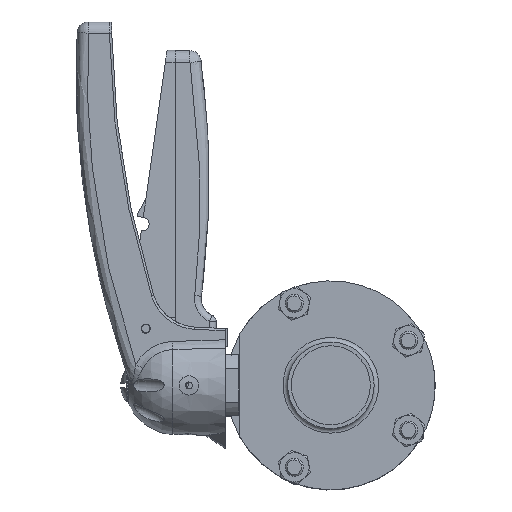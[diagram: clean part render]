
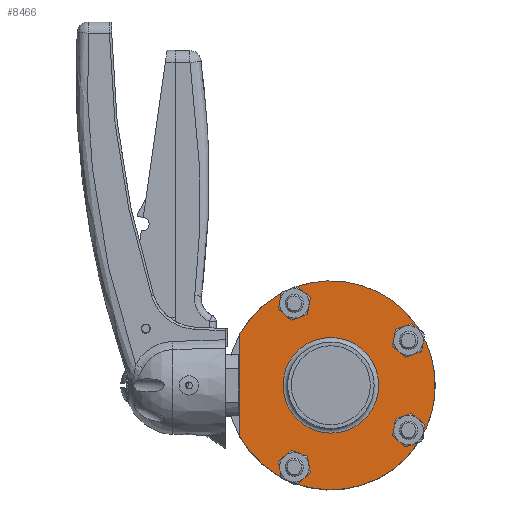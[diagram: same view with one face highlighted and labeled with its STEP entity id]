
A CAD part, top view. The second image highlights one B-rep face of the part: STEP entity #8466.
In plain terms, the highlighted planar face has unit normal (0, 0, 1) as drawn and (1, 0, 0) by its records, which use the part's own axes.
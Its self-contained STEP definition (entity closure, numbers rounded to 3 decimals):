
#871=FACE_BOUND('',#1800,.T.);
#872=FACE_BOUND('',#1801,.T.);
#873=FACE_BOUND('',#1802,.T.);
#874=FACE_BOUND('',#1803,.T.);
#875=FACE_BOUND('',#1804,.T.);
#934=PLANE('',#9156);
#1298=FACE_OUTER_BOUND('',#1799,.T.);
#1799=EDGE_LOOP('',(#6172,#6173));
#1800=EDGE_LOOP('',(#6174,#6175));
#1801=EDGE_LOOP('',(#6176,#6177));
#1802=EDGE_LOOP('',(#6178,#6179));
#1803=EDGE_LOOP('',(#6180,#6181));
#1804=EDGE_LOOP('',(#6182,#6183));
#2294=LINE('',#12430,#2873);
#2873=VECTOR('',#10154,10.);
#3478=CIRCLE('',#9143,46.);
#3479=CIRCLE('',#9145,4.25);
#3480=CIRCLE('',#9146,4.25);
#3481=CIRCLE('',#9148,4.25);
#3482=CIRCLE('',#9149,4.25);
#3483=CIRCLE('',#9151,4.25);
#3484=CIRCLE('',#9152,4.25);
#3485=CIRCLE('',#9154,4.25);
#3486=CIRCLE('',#9155,4.25);
#3487=CIRCLE('',#9157,21.05);
#3488=CIRCLE('',#9158,21.05);
#3865=VERTEX_POINT('',#12427);
#3866=VERTEX_POINT('',#12429);
#3867=VERTEX_POINT('',#12435);
#3868=VERTEX_POINT('',#12436);
#3869=VERTEX_POINT('',#12441);
#3870=VERTEX_POINT('',#12442);
#3871=VERTEX_POINT('',#12447);
#3872=VERTEX_POINT('',#12448);
#3873=VERTEX_POINT('',#12453);
#3874=VERTEX_POINT('',#12454);
#3875=VERTEX_POINT('',#12459);
#3876=VERTEX_POINT('',#12460);
#4730=EDGE_CURVE('',#3866,#3865,#2294,.T.);
#4732=EDGE_CURVE('',#3865,#3866,#3478,.T.);
#4733=EDGE_CURVE('',#3867,#3868,#3479,.T.);
#4734=EDGE_CURVE('',#3868,#3867,#3480,.T.);
#4736=EDGE_CURVE('',#3869,#3870,#3481,.T.);
#4737=EDGE_CURVE('',#3870,#3869,#3482,.T.);
#4739=EDGE_CURVE('',#3871,#3872,#3483,.T.);
#4740=EDGE_CURVE('',#3872,#3871,#3484,.T.);
#4742=EDGE_CURVE('',#3873,#3874,#3485,.T.);
#4743=EDGE_CURVE('',#3874,#3873,#3486,.T.);
#4745=EDGE_CURVE('',#3875,#3876,#3487,.T.);
#4746=EDGE_CURVE('',#3876,#3875,#3488,.T.);
#6172=ORIENTED_EDGE('',*,*,#4730,.T.);
#6173=ORIENTED_EDGE('',*,*,#4732,.T.);
#6174=ORIENTED_EDGE('',*,*,#4733,.T.);
#6175=ORIENTED_EDGE('',*,*,#4734,.T.);
#6176=ORIENTED_EDGE('',*,*,#4736,.T.);
#6177=ORIENTED_EDGE('',*,*,#4737,.T.);
#6178=ORIENTED_EDGE('',*,*,#4739,.T.);
#6179=ORIENTED_EDGE('',*,*,#4740,.T.);
#6180=ORIENTED_EDGE('',*,*,#4742,.T.);
#6181=ORIENTED_EDGE('',*,*,#4743,.T.);
#6182=ORIENTED_EDGE('',*,*,#4745,.F.);
#6183=ORIENTED_EDGE('',*,*,#4746,.F.);
#8466=ADVANCED_FACE('',(#1298,#871,#872,#873,#874,#875),#934,.T.);
#9143=AXIS2_PLACEMENT_3D('',#12433,#10158,#10159);
#9145=AXIS2_PLACEMENT_3D('',#12437,#10162,#10163);
#9146=AXIS2_PLACEMENT_3D('',#12438,#10164,#10165);
#9148=AXIS2_PLACEMENT_3D('',#12443,#10169,#10170);
#9149=AXIS2_PLACEMENT_3D('',#12444,#10171,#10172);
#9151=AXIS2_PLACEMENT_3D('',#12449,#10176,#10177);
#9152=AXIS2_PLACEMENT_3D('',#12450,#10178,#10179);
#9154=AXIS2_PLACEMENT_3D('',#12455,#10183,#10184);
#9155=AXIS2_PLACEMENT_3D('',#12456,#10185,#10186);
#9156=AXIS2_PLACEMENT_3D('',#12458,#10188,#10189);
#9157=AXIS2_PLACEMENT_3D('',#12461,#10190,#10191);
#9158=AXIS2_PLACEMENT_3D('',#12462,#10192,#10193);
#10154=DIRECTION('',(0.,0.,1.));
#10158=DIRECTION('center_axis',(1.,0.,0.));
#10159=DIRECTION('ref_axis',(0.,0.,-1.));
#10162=DIRECTION('center_axis',(-1.,0.,0.));
#10163=DIRECTION('ref_axis',(0.,0.,1.));
#10164=DIRECTION('center_axis',(-1.,0.,0.));
#10165=DIRECTION('ref_axis',(0.,0.,1.));
#10169=DIRECTION('center_axis',(-1.,0.,0.));
#10170=DIRECTION('ref_axis',(0.,0.,1.));
#10171=DIRECTION('center_axis',(-1.,0.,0.));
#10172=DIRECTION('ref_axis',(0.,0.,1.));
#10176=DIRECTION('center_axis',(-1.,0.,0.));
#10177=DIRECTION('ref_axis',(0.,0.,-1.));
#10178=DIRECTION('center_axis',(-1.,0.,0.));
#10179=DIRECTION('ref_axis',(0.,0.,-1.));
#10183=DIRECTION('center_axis',(-1.,0.,0.));
#10184=DIRECTION('ref_axis',(0.,0.,-1.));
#10185=DIRECTION('center_axis',(-1.,0.,0.));
#10186=DIRECTION('ref_axis',(0.,0.,-1.));
#10188=DIRECTION('center_axis',(1.,0.,0.));
#10189=DIRECTION('ref_axis',(0.,0.,-1.));
#10190=DIRECTION('center_axis',(1.,0.,0.));
#10191=DIRECTION('ref_axis',(0.,0.,-1.));
#10192=DIRECTION('center_axis',(1.,0.,0.));
#10193=DIRECTION('ref_axis',(0.,0.,-1.));
#12427=CARTESIAN_POINT('',(10.,40.,22.716));
#12429=CARTESIAN_POINT('',(10.,40.,-22.716));
#12430=CARTESIAN_POINT('',(10.,40.,-11.358));
#12433=CARTESIAN_POINT('Origin',(10.,0.,0.));
#12435=CARTESIAN_POINT('',(10.,16.066,40.335));
#12436=CARTESIAN_POINT('',(10.,16.066,31.835));
#12437=CARTESIAN_POINT('Origin',(10.,16.066,36.085));
#12438=CARTESIAN_POINT('Origin',(10.,16.066,36.085));
#12441=CARTESIAN_POINT('',(10.,-34.208,24.));
#12442=CARTESIAN_POINT('',(10.,-34.208,15.5));
#12443=CARTESIAN_POINT('Origin',(10.,-34.208,19.75));
#12444=CARTESIAN_POINT('Origin',(10.,-34.208,19.75));
#12447=CARTESIAN_POINT('',(10.,16.066,-40.335));
#12448=CARTESIAN_POINT('',(10.,16.066,-31.835));
#12449=CARTESIAN_POINT('Origin',(10.,16.066,-36.085));
#12450=CARTESIAN_POINT('Origin',(10.,16.066,-36.085));
#12453=CARTESIAN_POINT('',(10.,-34.208,-24.));
#12454=CARTESIAN_POINT('',(10.,-34.208,-15.5));
#12455=CARTESIAN_POINT('Origin',(10.,-34.208,-19.75));
#12456=CARTESIAN_POINT('Origin',(10.,-34.208,-19.75));
#12458=CARTESIAN_POINT('Origin',(10.,21.05,0.));
#12459=CARTESIAN_POINT('',(10.,21.05,0.));
#12460=CARTESIAN_POINT('',(10.,0.,21.05));
#12461=CARTESIAN_POINT('Origin',(10.,0.,0.));
#12462=CARTESIAN_POINT('Origin',(10.,0.,0.));
